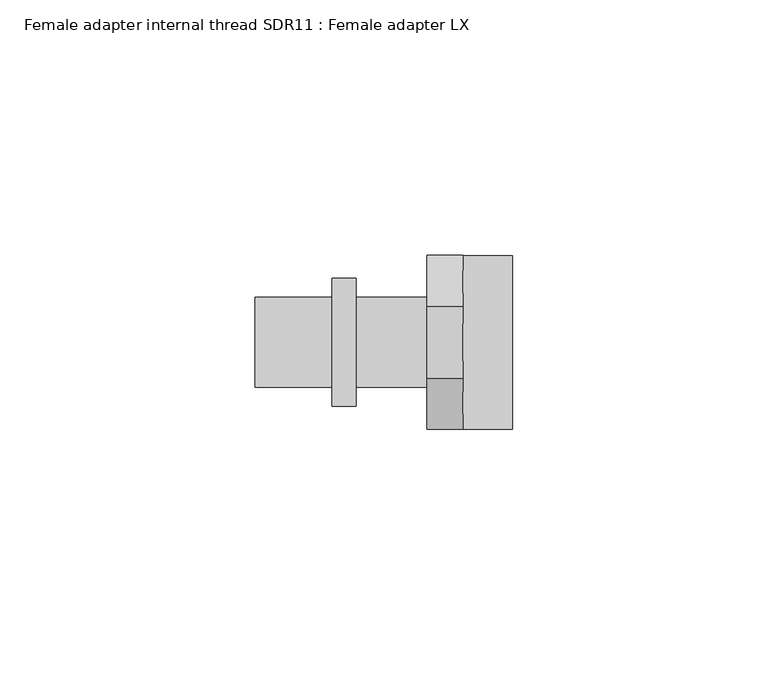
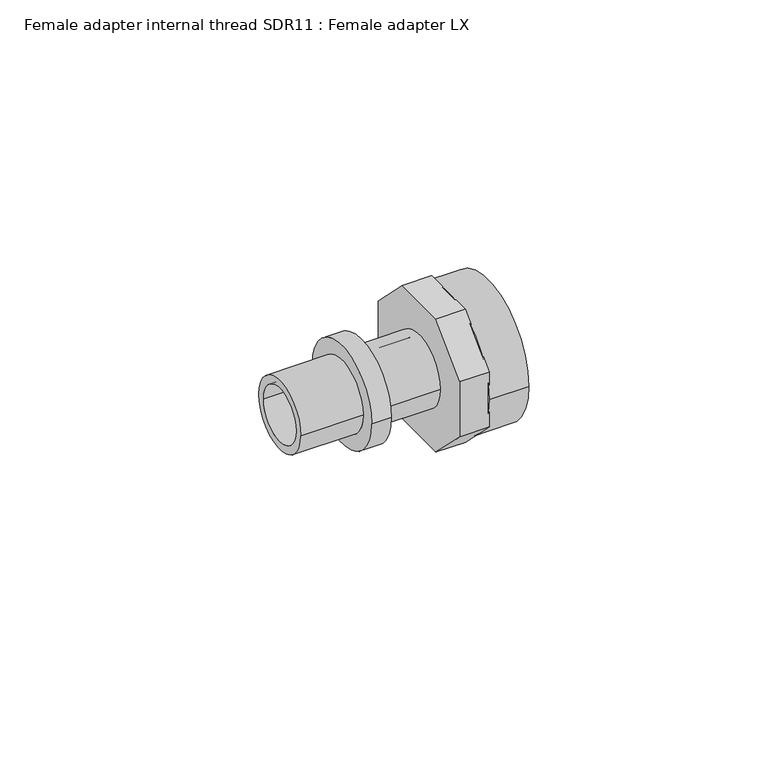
"""IFC4 building model written with IfcOpenShell, lengths in millimetres: pipe fitting geometry, Female adapter internal thread SDR11 : Female adapter LX."""

from ifc_helpers import new_model, si_unit, point, frame, origin, origin_2d, place, context, project, spatial, polyline, circle_curve, trimmed, segment, composite_curve, outline, extrude, source, transform, mapped, element, save
from ifc_brep_helpers import plane_surface, cylinder_surface, revolved_surface, advanced_brep


def female_adapter_internal_thread_sdr11_female_adapter_lx_b72150e8(model_context):
    return source(origin(), model_context, "Body", "SolidModel", [
        extrude(outline(composite_curve([segment(trimmed(circle_curve(origin_2d(), 17.0), [point((17.0, 0.0))], [point((-17.0, 0.0))], False, "CARTESIAN"), True, "CONTINUOUS"), segment(trimmed(circle_curve(origin_2d(), 17.0), [point((-17.0, 0.0))], [point((17.0, 0.0))], False, "CARTESIAN"), True, "CONTINUOUS")], self_intersect=False), holes=[composite_curve([segment(trimmed(circle_curve(origin_2d(), 12.15), [point((12.15, 0.0))], [point((-12.15, 0.0))], True, "CARTESIAN"), True, "CONTINUOUS"), segment(trimmed(circle_curve(origin_2d(), 12.15), [point((-12.15, 0.0))], [point((12.15, 0.0))], True, "CARTESIAN"), True, "CONTINUOUS")], self_intersect=False)]), frame((7.1, 0.0, 0.0), z_axis=(1.0, 0.0, 0.0), x_axis=(0.0, 1.0, 0.0)), (0.0, 0.0, 1.0), 9.6),
        advanced_brep(
        [(-18.6, 8.8, 0.0), (-18.6, -8.8, 0.0), (-33.6, -8.8, 0.0), (-33.6, 8.8, 0.0), (-13.9, 12.5, 0.0), (-13.9, -12.5, 0.0), (-18.6, -12.5, 0.0), (-18.6, 12.5, 0.0), (0.0, 8.8, 0.0), (0.0, -8.8, 0.0), (-13.9, -8.8, 0.0), (-13.9, 8.8, 0.0), (-33.6, 6.8, 0.0), (-33.6, -6.8, 0.0), (0.0, -6.8, 0.0), (0.0, 6.8, 0.0)],
        [
            (0, 1, circle_curve(frame((-18.6, 0.0, 0.0), z_axis=(-1.0, 0.0, 0.0), x_axis=(0.0, -1.0, 0.0)), 8.8)),
            (1, 2),
            (2, 3, circle_curve(frame((-33.6, 0.0, 0.0), z_axis=(1.0, 0.0, 0.0), x_axis=(0.0, -1.0, 0.0)), 8.8)),
            (3, 0),
            (4, 5, circle_curve(frame((-13.9, 0.0, 0.0), z_axis=(-1.0, 0.0, 0.0), x_axis=(0.0, -1.0, 0.0)), 12.5)),
            (5, 6),
            (6, 7, circle_curve(frame((-18.6, 0.0, 0.0), z_axis=(1.0, 0.0, 0.0), x_axis=(0.0, -1.0, 0.0)), 12.5)),
            (7, 4),
            (8, 9, circle_curve(frame((0.0, 0.0, 0.0), z_axis=(-1.0, 0.0, 0.0), x_axis=(0.0, -1.0, 0.0)), 8.8)),
            (9, 10),
            (10, 11, circle_curve(frame((-13.9, 0.0, 0.0), z_axis=(1.0, 0.0, 0.0), x_axis=(0.0, -1.0, 0.0)), 8.8)),
            (11, 8),
            (12, 13, circle_curve(frame((-33.6, 0.0, 0.0), z_axis=(-1.0, 0.0, 0.0), x_axis=(0.0, -1.0, 0.0)), 6.8)),
            (13, 14),
            (14, 15, circle_curve(frame((0.0, 0.0, 0.0), z_axis=(1.0, 0.0, 0.0), x_axis=(0.0, -1.0, 0.0)), 6.8)),
            (15, 12),
            (2, 3, circle_curve(frame((-33.6, 0.0, 0.0), z_axis=(-1.0, 0.0, 0.0), x_axis=(0.0, 1.0, 0.0)), 8.8)),
            (12, 13, circle_curve(frame((-33.6, 0.0, 0.0), z_axis=(1.0, 0.0, 0.0), x_axis=(0.0, 1.0, 0.0)), 6.8)),
            (1, 0, circle_curve(frame((-18.6, 0.0, 0.0), z_axis=(-1.0, 0.0, 0.0), x_axis=(0.0, 1.0, 0.0)), 8.8)),
            (6, 7, circle_curve(frame((-18.6, 0.0, 0.0), z_axis=(-1.0, 0.0, 0.0), x_axis=(0.0, 1.0, 0.0)), 12.5)),
            (5, 4, circle_curve(frame((-13.9, 0.0, 0.0), z_axis=(-1.0, 0.0, 0.0), x_axis=(0.0, 1.0, 0.0)), 12.5)),
            (10, 11, circle_curve(frame((-13.9, 0.0, 0.0), z_axis=(-1.0, 0.0, 0.0), x_axis=(0.0, 1.0, 0.0)), 8.8)),
            (9, 8, circle_curve(frame((0.0, 0.0, 0.0), z_axis=(-1.0, 0.0, 0.0), x_axis=(0.0, 1.0, 0.0)), 8.8)),
            (14, 15, circle_curve(frame((0.0, 0.0, 0.0), z_axis=(-1.0, 0.0, 0.0), x_axis=(0.0, 1.0, 0.0)), 6.8)),
        ],
        [
            cylinder_surface(frame((0.0, 0.0, 0.0), z_axis=(1.0, 0.0, 0.0), x_axis=(0.0, -1.0, 0.0)), 8.8),
            cylinder_surface(frame((0.0, 0.0, 0.0), z_axis=(1.0, 0.0, 0.0), x_axis=(0.0, -1.0, 0.0)), 12.5),
            revolved_surface(polyline([(0.0, -6.8, 0.0), (-33.6, -6.8, 0.0)]), (0.0, 0.0, 0.0), (1.0, 0.0, 0.0)),
            plane_surface(frame((-33.6, 0.0, 0.0), z_axis=(-1.0, 0.0, 0.0), x_axis=(0.0, 1.0, 0.0))),
            cylinder_surface(frame((0.0, 0.0, 0.0), z_axis=(1.0, 0.0, 0.0), x_axis=(0.0, 1.0, 0.0)), 8.8),
            plane_surface(frame((-18.6, 0.0, 0.0), z_axis=(-1.0, 0.0, 0.0), x_axis=(0.0, 1.0, 0.0))),
            cylinder_surface(frame((0.0, 0.0, 0.0), z_axis=(1.0, 0.0, 0.0), x_axis=(0.0, 1.0, 0.0)), 12.5),
            plane_surface(frame((-13.9, 0.0, 0.0), z_axis=(1.0, 0.0, 0.0), x_axis=(0.0, 1.0, 0.0))),
            plane_surface(frame((0.0, 0.0, 0.0), z_axis=(1.0, 0.0, 0.0), x_axis=(0.0, 1.0, 0.0))),
            revolved_surface(polyline([(0.0, 6.8, 0.0), (-33.6, 6.8, 0.0)]), (0.0, 0.0, 0.0), (1.0, 0.0, 0.0)),
        ],
        [
            (0, [[1, 2, 3, 4]]),
            (1, [[5, 6, 7, 8]]),
            (0, [[9, 10, 11, 12]]),
            (2, [[13, 14, 15, 16]]),
            (3, [[17, -3], [18, -13]]),
            (4, [[19, -4, -17, -2]]),
            (5, [[20, -7], [-19, -1]]),
            (6, [[21, -8, -20, -6]]),
            (7, [[-21, -5], [22, -11]]),
            (4, [[23, -12, -22, -10]]),
            (8, [[-23, -9], [24, -15]]),
            (9, [[-18, -16, -24, -14]]),
        ],
    ),
        extrude(outline(polyline([(-17.0, 7.0416306), (-7.0416306, 17.0), (7.0416306, 17.0), (17.0, 7.0416306), (17.0, -7.0416306), (7.0416306, -17.0), (-7.0416306, -17.0), (-17.0, -7.0416306), (-17.0, 7.0416306)])), frame((0.0, 0.0, 0.0), z_axis=(1.0, 0.0, 0.0), x_axis=(0.0, 1.0, 0.0)), (0.0, 0.0, 1.0), 7.1),
    ])


if __name__ == "__main__":
    model = new_model("IFC4")
    model_context = context("Model", 3, world=origin())
    ifc_project = project(units=[si_unit("LENGTHUNIT", "METRE", prefix="MILLI")], contexts=[model_context])
    site = spatial("IfcSite", under=ifc_project)
    building = spatial("IfcBuilding", under=site)
    placement = place(None, origin())
    female_adapter_internal_thread_sdr11_female_adapter_lx_shape = female_adapter_internal_thread_sdr11_female_adapter_lx_b72150e8(model_context)
    element("IfcPipeFitting", 1, ObjectType="Female adapter internal thread SDR11 : Female adapter LX", at=placement, inside=building, context=model_context, shape_type="MappedRepresentation", body=[
        mapped(female_adapter_internal_thread_sdr11_female_adapter_lx_shape, transform((0.0, 0.0, 0.0), x_axis=(1.0, 0.0, 0.0), y_axis=(0.0, 1.0, 0.0), z_axis=(0.0, 0.0, 1.0))),
    ])
    save(model, "model.ifc")
